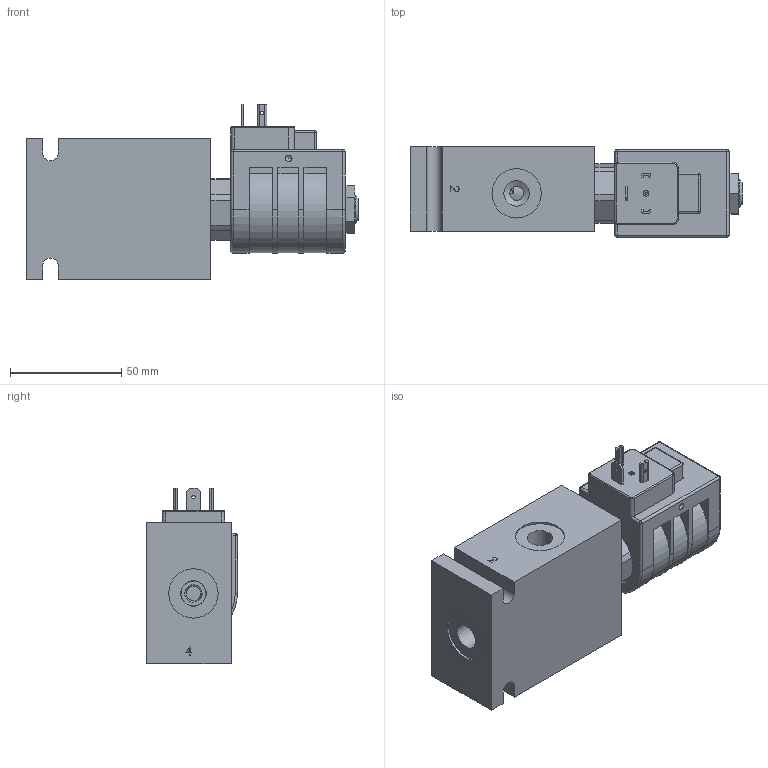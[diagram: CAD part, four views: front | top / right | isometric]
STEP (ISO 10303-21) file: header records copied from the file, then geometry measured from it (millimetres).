
FILE_DESCRIPTION( ( 'Unknown' ), '1' );
FILE_NAME( 'G:/Graphic Design/Graphic Design 2/Data Sheets/SOLENOID OPERATED VALVES/4_STEP/4W2P Spool/D-HGS4A00A4.stp', 'Unknown', ( 'Unknown' ), ( 'Unknown' ), 'PSStep 16.0.42', 'Unknown', ' ' );
FILE_SCHEMA( ( 'AUTOMOTIVE_DESIGN { 1 0 10303 214 1 1 1 1 }' ) );
Length unit declared in the file: millimetre
Products named in the file (20): D-DHC24; DHC-Body; DHC-Disc; PT-EL-HC-TerminalConnectors; D-DG-S4A-00; HGS4A00-3D Full1; HGS4A00-3D Full2; HGS4A00-3D Full3; HGS4A00-3D Full4; HGS4A00-3D Full5; HGS4A00-3D Full6; HGS4A00-3D Full7; HGS4A00-3D Full8; HGS4A00-3D Full9; HGS4A00-3D Full10; HGS4A00-3D Full11; HGS4A00-3D Full12; Delta_1_2_nut1; Assem1; B-DDGA4
Assembly tree (20 placements, depth 3):
  Assem1
    B-DDGA4
    D-DG-S4A-00
      HGS4A00-3D Full1
      HGS4A00-3D Full2
      HGS4A00-3D Full3
      HGS4A00-3D Full4
      HGS4A00-3D Full5
      HGS4A00-3D Full6
      HGS4A00-3D Full7
      HGS4A00-3D Full8
      HGS4A00-3D Full9
      HGS4A00-3D Full10
      HGS4A00-3D Full11
      HGS4A00-3D Full12
      Delta_1_2_nut1
    D-DHC24
      DHC-Body
      DHC-Disc  x2
      PT-EL-HC-TerminalConnectors
Bounding box: 149.5 x 40.9 x 79.1 mm (x, y, z)
Surface area: 62459.3 mm2 (no closed solid volume)
Topology: 0 solids, 791 shells, 791 faces, 3797 edges, 3656 vertices
Faces by surface type: plane 398, cylinder 142, extrusion 118, cone 78, torus 49, sphere 6
Full cylindrical faces by diameter (mm): 0.2 x4, 1 x1, 1.5 x3, 2.5 x1, 3 x2, 6.3 x2, 11 x1, 11.11 x1, 11.176 x1, 11.5 x7, 12.7 x2, 12.827 x1, 12.992 x1, 13 x1, 13.043 x2, 14 x1, 14.275 x1, 14.592 x1, 14.643 x2, 15.773 x4, 15.85 x1, 15.875 x3, 15.9 x1, 16.167 x1, 16.218 x2, 17.323 x1, 17.374 x4, 17.501 x1, 18.91 x2, 18.948 x2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
Entity records: 46410 total; most frequent: CARTESIAN_POINT 13440, DIRECTION 4864, VERTEX_POINT 3614, ORIENTED_EDGE 3608, EDGE_CURVE 3608, VECTOR 1876, LINE 1758, AXIS2_PLACEMENT_3D 1494
